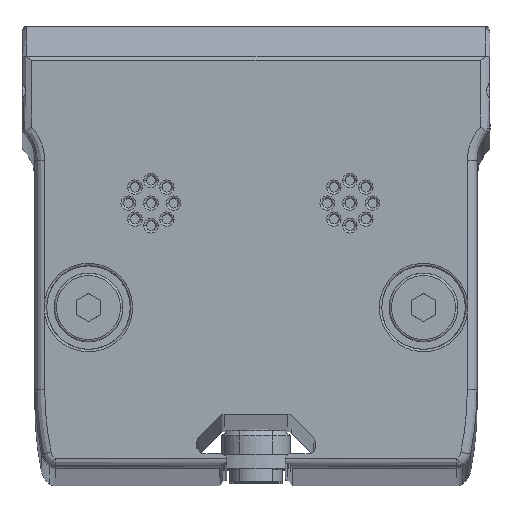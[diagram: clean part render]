
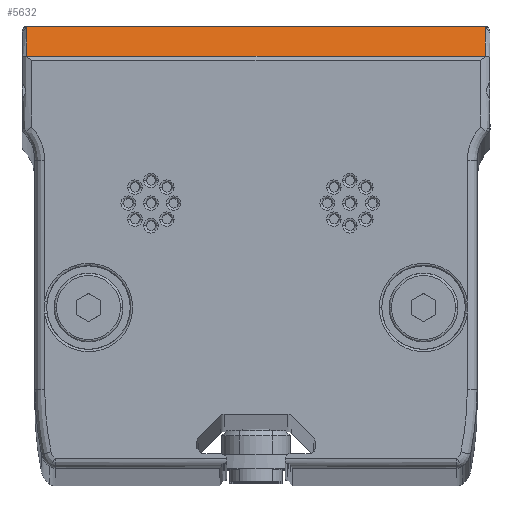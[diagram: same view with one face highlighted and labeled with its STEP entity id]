
A CAD part, top view. The second image highlights one B-rep face of the part: STEP entity #5632.
In plain terms, the highlighted planar face has unit normal (0, 0.858, 0.514).
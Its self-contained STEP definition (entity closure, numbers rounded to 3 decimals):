
#470 = EDGE_LOOP ( 'NONE', ( #9724, #2487, #23797, #18645, #25895, #7878, #12068 ) ) ;
#613 = DIRECTION ( 'NONE',  ( -1., 0., 0. ) ) ;
#1633 =( BOUNDED_CURVE ( )  B_SPLINE_CURVE ( 3, ( #17336, #7053, #9092, #11243 ),
 .UNSPECIFIED., .F., .F. ) 
 B_SPLINE_CURVE_WITH_KNOTS ( ( 4, 4 ),
 ( 0., 1.571 ),
 .UNSPECIFIED. ) 
 CURVE ( )  GEOMETRIC_REPRESENTATION_ITEM ( )  RATIONAL_B_SPLINE_CURVE ( ( 1., 0.805, 0.805, 1. ) ) 
 REPRESENTATION_ITEM ( '' )  );
#1669 = DIRECTION ( 'NONE',  ( 0., -0.857, -0.514 ) ) ;
#2487 = ORIENTED_EDGE ( 'NONE', *, *, #17525, .T. ) ;
#2940 = LINE ( 'NONE', #19424, #15532 ) ;
#5632 = ADVANCED_FACE ( 'NONE', ( #22205 ), #5854, .F. ) ;
#5854 = PLANE ( 'NONE',  #21281 ) ;
#5999 = CARTESIAN_POINT ( 'NONE',  ( 23.215, 22.429, 1004.914 ) ) ;
#7053 = CARTESIAN_POINT ( 'NONE',  ( -23.274, 22.429, 1004.914 ) ) ;
#7613 = VERTEX_POINT ( 'NONE', #10917 ) ;
#7626 = VECTOR ( 'NONE', #17940, 1000. ) ;
#7878 = ORIENTED_EDGE ( 'NONE', *, *, #26414, .T. ) ;
#8156 = CARTESIAN_POINT ( 'NONE',  ( 23.315, 22.387, 1004.983 ) ) ;
#8288 = VERTEX_POINT ( 'NONE', #13123 ) ;
#9092 = CARTESIAN_POINT ( 'NONE',  ( -23.315, 22.387, 1004.983 ) ) ;
#9724 = ORIENTED_EDGE ( 'NONE', *, *, #25656, .T. ) ;
#10597 = LINE ( 'NONE', #12620, #21266 ) ;
#10694 = VERTEX_POINT ( 'NONE', #20935 ) ;
#10917 = CARTESIAN_POINT ( 'NONE',  ( -23.315, 22.329, 1005.08 ) ) ;
#11243 = CARTESIAN_POINT ( 'NONE',  ( -23.315, 22.329, 1005.08 ) ) ;
#11821 = CARTESIAN_POINT ( 'NONE',  ( 23.315, 22.329, 1005.08 ) ) ;
#12068 = ORIENTED_EDGE ( 'NONE', *, *, #20538, .T. ) ;
#12125 = LINE ( 'NONE', #22143, #7626 ) ;
#12620 = CARTESIAN_POINT ( 'NONE',  ( -23.315, 19.287, 1010.15 ) ) ;
#12746 = LINE ( 'NONE', #19124, #20724 ) ;
#13123 = CARTESIAN_POINT ( 'NONE',  ( -23.315, 19.433, 1009.907 ) ) ;
#14082 = CARTESIAN_POINT ( 'NONE',  ( 23.215, 22.429, 1004.914 ) ) ;
#14483 = CARTESIAN_POINT ( 'NONE',  ( 23.274, 22.429, 1004.914 ) ) ;
#15532 = VECTOR ( 'NONE', #17392, 1000. ) ;
#16126 = CARTESIAN_POINT ( 'NONE',  ( -23.215, 22.429, 1004.914 ) ) ;
#16251 = CARTESIAN_POINT ( 'NONE',  ( 23.215, 22.429, 1004.914 ) ) ;
#16325 = VERTEX_POINT ( 'NONE', #16126 ) ;
#17336 = CARTESIAN_POINT ( 'NONE',  ( -23.215, 22.429, 1004.914 ) ) ;
#17392 = DIRECTION ( 'NONE',  ( 0., 0.514, -0.857 ) ) ;
#17525 = EDGE_CURVE ( 'NONE', #10694, #23899, #2940, .T. ) ;
#17940 = DIRECTION ( 'NONE',  ( 1., 0., 0. ) ) ;
#18005 = DIRECTION ( 'NONE',  ( 0., 0.514, -0.857 ) ) ;
#18349 =( BOUNDED_CURVE ( )  B_SPLINE_CURVE ( 3, ( #24119, #5999, #22483, #16251 ),
 .UNSPECIFIED., .F., .F. ) 
 B_SPLINE_CURVE_WITH_KNOTS ( ( 4, 4 ),
 ( 0., 0. ),
 .UNSPECIFIED. ) 
 CURVE ( )  GEOMETRIC_REPRESENTATION_ITEM ( )  RATIONAL_B_SPLINE_CURVE ( ( 1., 1., 1., 1. ) ) 
 REPRESENTATION_ITEM ( '' )  );
#18553 = CARTESIAN_POINT ( 'NONE',  ( 23.315, 22.329, 1005.08 ) ) ;
#18645 = ORIENTED_EDGE ( 'NONE', *, *, #24163, .T. ) ;
#19124 = CARTESIAN_POINT ( 'NONE',  ( -23.215, 22.429, 1004.914 ) ) ;
#19424 = CARTESIAN_POINT ( 'NONE',  ( 23.315, 19.287, 1010.15 ) ) ;
#20409 = VERTEX_POINT ( 'NONE', #21023 ) ;
#20538 = EDGE_CURVE ( 'NONE', #7613, #8288, #10597, .T. ) ;
#20724 = VECTOR ( 'NONE', #613, 1000. ) ;
#20891 = DIRECTION ( 'NONE',  ( 0., -0.514, 0.857 ) ) ;
#20935 = CARTESIAN_POINT ( 'NONE',  ( 23.315, 19.433, 1009.907 ) ) ;
#21023 = CARTESIAN_POINT ( 'NONE',  ( 23.215, 22.429, 1004.914 ) ) ;
#21219 = EDGE_CURVE ( 'NONE', #20409, #16325, #12746, .T. ) ;
#21266 = VECTOR ( 'NONE', #20891, 1000. ) ;
#21281 = AXIS2_PLACEMENT_3D ( 'NONE', #22073, #1669, #18005 ) ;
#22073 = CARTESIAN_POINT ( 'NONE',  ( 23.82, 19.287, 1010.15 ) ) ;
#22143 = CARTESIAN_POINT ( 'NONE',  ( 23.82, 19.433, 1009.907 ) ) ;
#22205 = FACE_OUTER_BOUND ( 'NONE', #470, .T. ) ;
#22483 = CARTESIAN_POINT ( 'NONE',  ( 23.215, 22.429, 1004.914 ) ) ;
#23574 =( BOUNDED_CURVE ( )  B_SPLINE_CURVE ( 3, ( #18553, #8156, #14483, #14082 ),
 .UNSPECIFIED., .F., .F. ) 
 B_SPLINE_CURVE_WITH_KNOTS ( ( 4, 4 ),
 ( 4.712, 6.283 ),
 .UNSPECIFIED. ) 
 CURVE ( )  GEOMETRIC_REPRESENTATION_ITEM ( )  RATIONAL_B_SPLINE_CURVE ( ( 1., 0.805, 0.805, 1. ) ) 
 REPRESENTATION_ITEM ( '' )  );
#23797 = ORIENTED_EDGE ( 'NONE', *, *, #25303, .T. ) ;
#23899 = VERTEX_POINT ( 'NONE', #11821 ) ;
#24119 = CARTESIAN_POINT ( 'NONE',  ( 23.215, 22.429, 1004.914 ) ) ;
#24163 = EDGE_CURVE ( 'NONE', #24625, #20409, #18349, .T. ) ;
#24625 = VERTEX_POINT ( 'NONE', #25420 ) ;
#25303 = EDGE_CURVE ( 'NONE', #23899, #24625, #23574, .T. ) ;
#25420 = CARTESIAN_POINT ( 'NONE',  ( 23.215, 22.429, 1004.914 ) ) ;
#25656 = EDGE_CURVE ( 'NONE', #8288, #10694, #12125, .T. ) ;
#25895 = ORIENTED_EDGE ( 'NONE', *, *, #21219, .T. ) ;
#26414 = EDGE_CURVE ( 'NONE', #16325, #7613, #1633, .T. ) ;
